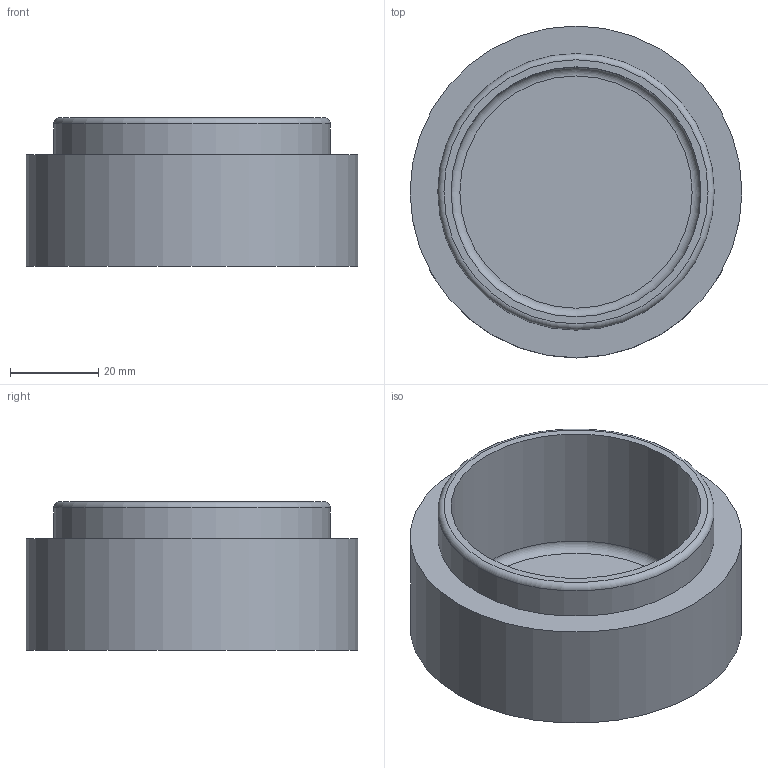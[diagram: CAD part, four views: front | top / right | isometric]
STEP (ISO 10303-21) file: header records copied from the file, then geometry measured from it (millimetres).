
FILE_DESCRIPTION(/* description */ ('STEP AP242','CAx-IF Rec.Pracs.---Representation and Presentation of Product Manufacturing Information (PMI)---4.0---2014-10-13','CAx-IF Rec.Pracs.---3D Tessellated Geometry---0.4---2014-09-14','2;1'),/* implementation_level */ '2;1');
FILE_NAME(/* name */ '6465b99a7c5e517f9e04ee4b',/* time_stamp */ '2023-05-18T05:37:30Z',/* author */ (''),/* organization */ (''),/* preprocessor_version */ 'ST-DEVELOPER v19.4',/* originating_system */ ' ',/* authorisation */ ' ');
FILE_SCHEMA (('AP242_MANAGED_MODEL_BASED_3D_ENGINEERING_MIM_LF { 1 0 10303 442 1 1 4 }'));
Length unit declared in the file: metre
Products named in the file (1): Stand Lug
Bounding box: 75 x 75 x 33.6 mm (x, y, z)
Volume: 57942.1 mm3; surface area: 21758.7 mm2
Topology: 1 solids, 1 shells, 9 faces, 16 edges, 11 vertices
Faces by surface type: plane 4, cylinder 3, torus 2
Full cylindrical faces by diameter (mm): 56.5 x1, 62.5 x1, 75 x1
Entity records: 196 total; most frequent: DIRECTION 36, CARTESIAN_POINT 26, AXIS2_PLACEMENT_3D 18, ORIENTED_EDGE 16, EDGE_LOOP 16, FACE_BOUND 16, ADVANCED_FACE 9, EDGE_CURVE 8
